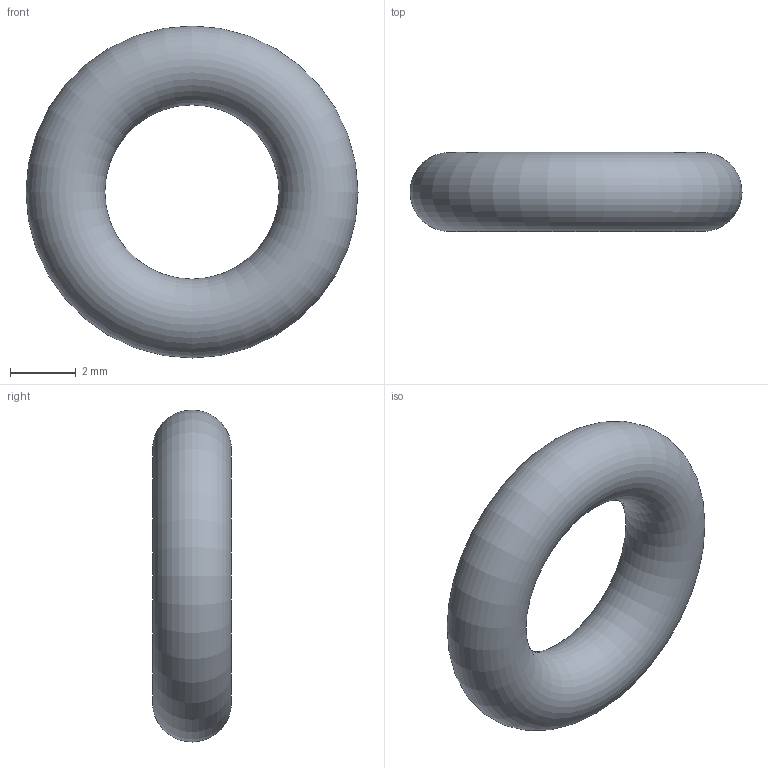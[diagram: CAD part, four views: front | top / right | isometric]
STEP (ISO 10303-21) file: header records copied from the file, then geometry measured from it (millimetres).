
FILE_DESCRIPTION( ( 'STEP AP203' ), '1' );
FILE_NAME( 'C:/Temp/Ganter_Step_05_03_2020/data/3_5/or638/O-Ring OR638-5.30-2.40-70.stp', '2020-03-12T13:44:24', ( 'License CC BY-ND 4.0' ), ( 'CADENAS' ), ' ', 'PARTsolutions', ' ' );
FILE_SCHEMA( ( 'CONFIG_CONTROL_DESIGN' ) );
Length unit declared in the file: millimetre
Products named in the file (1): _O-Ring OR638-5.30-2.40-70
Bounding box: 10.1 x 2.4 x 10.1 mm (x, y, z)
Volume: 109.4 mm3; surface area: 182.4 mm2
Topology: 1 solids, 1 shells, 1 faces, 2 edges, 1 vertices
Faces by surface type: torus 1
Entity records: 62 total; most frequent: CC_DESIGN_PERSON_AND_ORGANIZATION_ASSIGNMENT 5, PERSON_AND_ORGANIZATION_ROLE 4, DIRECTION 4, CARTESIAN_POINT 3, DATE_TIME_ROLE 2, CC_DESIGN_DATE_AND_TIME_ASSIGNMENT 2, AXIS2_PLACEMENT_3D 2, DIMENSIONAL_EXPONENTS 2
